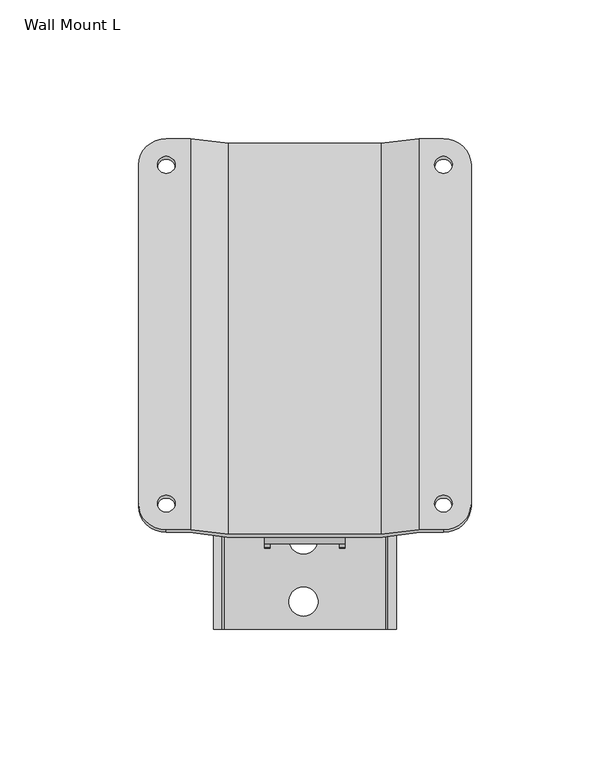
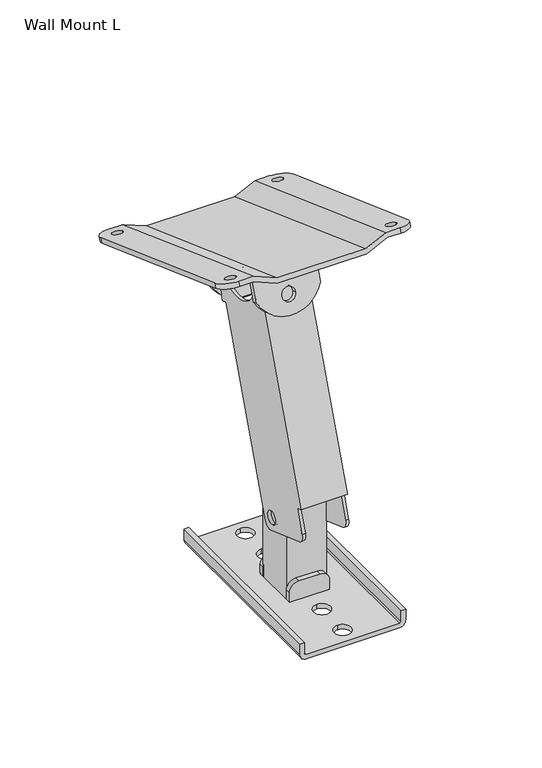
"""IFC4 building model written with IfcOpenShell, lengths in millimetres: proxy geometry, d&b xS-Series Wall Mount L : Wall Mount L."""

from ifc_helpers import new_model, si_unit, point, frame, frame_2d, origin, origin_with_axes, place, context, project, spatial, polyline, circle_curve, trimmed, segment, composite_curve, outline, extrude, source, transform, mapped, element, save
from ifc_brep_helpers import plane_surface, cylinder_surface, revolved_surface, advanced_brep


def wall_mount_l_aa618b3f(model_context):
    return source(origin(), model_context, "Body", "SolidModel", [
        advanced_brep(
        [(-27.5, -28.3083709, 229.5181773), (-41.2373871, -26.5982702, 234.2166404), (-50.0, -26.5982702, 234.2166404), (-50.0, -27.6243307, 231.3975625), (-41.766368, -27.6243307, 231.3975625), (-28.0289809, -29.3344314, 226.6990994), (28.0289809, -29.3344314, 226.6990994), (41.766368, -27.6243307, 231.3975625), (50.0, -27.6243307, 231.3975625), (50.0, -26.5982702, 234.2166404), (41.2373871, -26.5982702, 234.2166404), (27.5, -28.3083709, 229.5181773), (-27.5, 112.6455222, 178.2151558), (27.5, 112.6455222, 178.2151558), (41.2373871, 114.3556229, 182.9136189), (50.0, 114.3556229, 182.9136189), (50.0, 113.3295625, 180.094541), (41.766368, 113.3295625, 180.094541), (28.0289809, 111.6194617, 175.3960779), (-28.0289809, 111.6194617, 175.3960779), (-41.766368, 113.3295625, 180.094541), (-50.0, 113.3295625, 180.094541), (-50.0, 114.3556229, 182.9136189), (-41.2373871, 114.3556229, 182.9136189), (60.0, -17.201344, 230.7964389), (60.0, 104.9586967, 186.3338203), (53.2145495, -17.201344, 230.7964389), (46.7854505, -17.201344, 230.7964389), (53.2145495, 104.9586967, 186.3338203), (46.7854505, 104.9586967, 186.3338203), (60.0, -18.2274044, 227.9773611), (60.0, 103.9326363, 183.5147424), (46.7854505, 103.9326363, 183.5147424), (53.2145495, 103.9326363, 183.5147424), (46.7854505, -18.2274044, 227.9773611), (53.2145495, -18.2274044, 227.9773611), (-60.0, -18.2274044, 227.9773611), (-60.0, 103.9326363, 183.5147424), (-53.2145495, 103.9326363, 183.5147424), (-46.7854505, 103.9326363, 183.5147424), (-53.2145495, -18.2274044, 227.9773611), (-46.7854505, -18.2274044, 227.9773611), (-60.0, -17.201344, 230.7964389), (-60.0, 104.9586967, 186.3338203), (-46.7854505, -17.201344, 230.7964389), (-53.2145495, -17.201344, 230.7964389), (-46.7854505, 104.9586967, 186.3338203), (-53.2145495, 104.9586967, 186.3338203)],
        [
            (0, 1),
            (1, 2),
            (2, 3),
            (3, 4),
            (4, 5),
            (5, 6),
            (6, 7),
            (7, 8),
            (8, 9),
            (9, 10),
            (10, 11),
            (11, 0),
            (12, 13),
            (13, 14),
            (14, 15),
            (15, 16),
            (16, 17),
            (17, 18),
            (18, 19),
            (19, 20),
            (20, 21),
            (21, 22),
            (22, 23),
            (23, 12),
            (11, 13),
            (12, 0),
            (10, 14),
            (9, 24, circle_curve(frame((50.0, -17.201344, 230.7964389), z_axis=(0.0, 0.3420201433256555, 0.9396926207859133), x_axis=(1.0, 0.0, 0.0)), 10.0)),
            (24, 25),
            (25, 15, circle_curve(frame((50.0, 104.9586967, 186.3338203), z_axis=(0.0, 0.3420201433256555, 0.9396926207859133), x_axis=(1.0, 0.0, 0.0)), 10.0)),
            (26, 27, circle_curve(frame((50.0, -17.201344, 230.7964389), z_axis=(0.0, -0.3420201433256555, -0.9396926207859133), x_axis=(1.0, 0.0, 0.0)), 3.2145495)),
            (27, 26, circle_curve(frame((50.0, -17.201344, 230.7964389), z_axis=(0.0, -0.3420201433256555, -0.9396926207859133), x_axis=(1.0, 0.0, 0.0)), 3.2145495)),
            (28, 29, circle_curve(frame((50.0, 104.9586967, 186.3338203), z_axis=(0.0, -0.3420201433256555, -0.9396926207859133), x_axis=(1.0, 0.0, 0.0)), 3.2145495)),
            (29, 28, circle_curve(frame((50.0, 104.9586967, 186.3338203), z_axis=(0.0, -0.3420201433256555, -0.9396926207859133), x_axis=(1.0, 0.0, 0.0)), 3.2145495)),
            (24, 30),
            (30, 31),
            (31, 25),
            (7, 17),
            (16, 31, circle_curve(frame((50.0, 103.9326363, 183.5147424), z_axis=(0.0, -0.3420201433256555, -0.9396926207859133), x_axis=(1.0, 0.0, 0.0)), 10.0)),
            (30, 8, circle_curve(frame((50.0, -18.2274044, 227.9773611), z_axis=(0.0, -0.3420201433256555, -0.9396926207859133), x_axis=(1.0, 0.0, 0.0)), 10.0)),
            (32, 33, circle_curve(frame((50.0, 103.9326363, 183.5147424), z_axis=(0.0, 0.3420201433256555, 0.9396926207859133), x_axis=(1.0, 0.0, 0.0)), 3.2145495)),
            (33, 32, circle_curve(frame((50.0, 103.9326363, 183.5147424), z_axis=(0.0, 0.3420201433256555, 0.9396926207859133), x_axis=(1.0, 0.0, 0.0)), 3.2145495)),
            (34, 35, circle_curve(frame((50.0, -18.2274044, 227.9773611), z_axis=(0.0, 0.3420201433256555, 0.9396926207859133), x_axis=(1.0, 0.0, 0.0)), 3.2145495)),
            (35, 34, circle_curve(frame((50.0, -18.2274044, 227.9773611), z_axis=(0.0, 0.3420201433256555, 0.9396926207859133), x_axis=(1.0, 0.0, 0.0)), 3.2145495)),
            (6, 18),
            (5, 19),
            (4, 20),
            (3, 36, circle_curve(frame((-50.0, -18.2274044, 227.9773611), z_axis=(0.0, -0.3420201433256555, -0.9396926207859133), x_axis=(1.0, 0.0, 0.0)), 10.0)),
            (36, 37),
            (37, 21, circle_curve(frame((-50.0, 103.9326363, 183.5147424), z_axis=(0.0, -0.3420201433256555, -0.9396926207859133), x_axis=(1.0, 0.0, 0.0)), 10.0)),
            (38, 39, circle_curve(frame((-50.0, 103.9326363, 183.5147424), z_axis=(0.0, 0.3420201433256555, 0.9396926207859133), x_axis=(1.0, 0.0, 0.0)), 3.2145495)),
            (39, 38, circle_curve(frame((-50.0, 103.9326363, 183.5147424), z_axis=(0.0, 0.3420201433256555, 0.9396926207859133), x_axis=(1.0, 0.0, 0.0)), 3.2145495)),
            (40, 41, circle_curve(frame((-50.0, -18.2274044, 227.9773611), z_axis=(0.0, 0.3420201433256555, 0.9396926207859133), x_axis=(1.0, 0.0, 0.0)), 3.2145495)),
            (41, 40, circle_curve(frame((-50.0, -18.2274044, 227.9773611), z_axis=(0.0, 0.3420201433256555, 0.9396926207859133), x_axis=(1.0, 0.0, 0.0)), 3.2145495)),
            (36, 42),
            (42, 43),
            (43, 37),
            (1, 23),
            (22, 43, circle_curve(frame((-50.0, 104.9586967, 186.3338203), z_axis=(0.0, 0.3420201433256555, 0.9396926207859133), x_axis=(1.0, 0.0, 0.0)), 10.0)),
            (42, 2, circle_curve(frame((-50.0, -17.201344, 230.7964389), z_axis=(0.0, 0.3420201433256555, 0.9396926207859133), x_axis=(1.0, 0.0, 0.0)), 10.0)),
            (44, 45, circle_curve(frame((-50.0, -17.201344, 230.7964389), z_axis=(0.0, -0.3420201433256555, -0.9396926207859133), x_axis=(1.0, 0.0, 0.0)), 3.2145495)),
            (45, 44, circle_curve(frame((-50.0, -17.201344, 230.7964389), z_axis=(0.0, -0.3420201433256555, -0.9396926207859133), x_axis=(1.0, 0.0, 0.0)), 3.2145495)),
            (46, 47, circle_curve(frame((-50.0, 104.9586967, 186.3338203), z_axis=(0.0, -0.3420201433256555, -0.9396926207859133), x_axis=(1.0, 0.0, 0.0)), 3.2145495)),
            (47, 46, circle_curve(frame((-50.0, 104.9586967, 186.3338203), z_axis=(0.0, -0.3420201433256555, -0.9396926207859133), x_axis=(1.0, 0.0, 0.0)), 3.2145495)),
            (38, 47),
            (46, 39),
            (32, 29),
            (28, 33),
            (40, 45),
            (44, 41),
            (34, 27),
            (26, 35),
        ],
        [
            plane_surface(frame((27.5, -28.3083709, 229.5181773), z_axis=(0.0, -0.9396926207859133, 0.3420201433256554), x_axis=(-1.0, 0.0, 0.0))),
            plane_surface(frame((27.5, 112.6455222, 178.2151558), z_axis=(0.0, 0.9396926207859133, -0.3420201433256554), x_axis=(1.0, 0.0, 0.0))),
            plane_surface(frame((-27.5, 112.6455222, 178.2151558), z_axis=(0.0, 0.3420201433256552, 0.9396926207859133), x_axis=(0.0, -0.9396926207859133, 0.3420201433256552))),
            plane_surface(frame((27.5, 112.6455222, 178.2151558), z_axis=(-0.3420201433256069, 0.32139380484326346, 0.8830222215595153), x_axis=(0.0, -0.9396926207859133, 0.34202014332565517))),
            plane_surface(frame((41.2373871, 114.3556229, 182.9136189), z_axis=(0.0, 0.34202014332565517, 0.9396926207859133), x_axis=(0.0, -0.9396926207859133, 0.34202014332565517))),
            plane_surface(frame((60.0, 114.3556229, 182.9136189), z_axis=(1.0, 0.0, 0.0), x_axis=(0.0, -0.9396926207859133, 0.34202014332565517))),
            plane_surface(frame((60.0, 113.3295625, 180.094541), z_axis=(0.0, -0.34202014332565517, -0.9396926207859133), x_axis=(0.0, -0.9396926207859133, 0.34202014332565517))),
            plane_surface(frame((41.766368, 113.3295625, 180.094541), z_axis=(0.34202014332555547, -0.32139380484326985, -0.8830222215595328), x_axis=(0.0, -0.9396926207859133, 0.34202014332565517))),
            plane_surface(frame((28.0289809, 111.6194617, 175.3960779), z_axis=(0.0, -0.34202014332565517, -0.9396926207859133), x_axis=(0.0, -0.9396926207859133, 0.34202014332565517))),
            plane_surface(frame((-28.0289809, 111.6194617, 175.3960779), z_axis=(-0.3420201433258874, -0.32139380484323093, -0.8830222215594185), x_axis=(0.0, -0.9396926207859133, 0.3420201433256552))),
            plane_surface(frame((-41.766368, 113.3295625, 180.094541), z_axis=(0.0, -0.34202014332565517, -0.9396926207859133), x_axis=(0.0, -0.9396926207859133, 0.34202014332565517))),
            plane_surface(frame((-60.0, 113.3295625, 180.094541), z_axis=(-1.0, 0.0, 0.0), x_axis=(0.0, -0.9396926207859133, 0.3420201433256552))),
            plane_surface(frame((-60.0, 114.3556229, 182.9136189), z_axis=(0.0, 0.34202014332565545, 0.9396926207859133), x_axis=(0.0, -0.9396926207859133, 0.34202014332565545))),
            plane_surface(frame((-41.2373871, 114.3556229, 182.9136189), z_axis=(0.3420201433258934, 0.32139380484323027, 0.8830222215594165), x_axis=(0.0, -0.9396926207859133, 0.3420201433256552))),
            cylinder_surface(frame((-50.0, 103.248596, 181.6353572), z_axis=(0.0, -0.3420201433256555, -0.9396926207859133), x_axis=(1.0, 0.0, 0.0)), 10.0),
            cylinder_surface(frame((-50.0, -17.201344, 230.7964389), z_axis=(0.0, -0.3420201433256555, -0.9396926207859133), x_axis=(1.0, 0.0, 0.0)), 10.0),
            cylinder_surface(frame((50.0, 104.9586967, 186.3338203), z_axis=(0.0, -0.3420201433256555, -0.9396926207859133), x_axis=(1.0, 0.0, 0.0)), 10.0),
            cylinder_surface(frame((50.0, -17.201344, 230.7964389), z_axis=(0.0, -0.3420201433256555, -0.9396926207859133), x_axis=(1.0, 0.0, 0.0)), 10.0),
            revolved_surface(polyline([(-46.7854505, 104.9586967, 186.3338203), (-46.7854505, 103.93263626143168, 183.5147424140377)]), (-50.0, 104.9586967, 186.3338203), (0.0, 0.3420201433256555, 0.9396926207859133)),
            revolved_surface(polyline([(53.2145495, 104.9586967, 186.3338203), (53.2145495, 103.93263626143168, 183.5147424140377)]), (50.0, 104.9586967, 186.3338203), (0.0, 0.3420201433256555, 0.9396926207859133)),
            revolved_surface(polyline([(-46.7854505, -17.201344, 230.7964389), (-46.7854505, -18.227404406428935, 227.97736110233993)]), (-50.0, -17.201344, 230.7964389), (0.0, 0.3420201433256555, 0.9396926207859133)),
            revolved_surface(polyline([(53.2145495, -17.201344, 230.7964389), (53.2145495, -18.227404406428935, 227.97736110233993)]), (50.0, -17.201344, 230.7964389), (0.0, 0.3420201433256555, 0.9396926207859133)),
        ],
        [
            (0, [[1, 2, 3, 4, 5, 6, 7, 8, 9, 10, 11, 12]]),
            (1, [[13, 14, 15, 16, 17, 18, 19, 20, 21, 22, 23, 24]]),
            (2, [[-12, 25, -13, 26]]),
            (3, [[-11, 27, -14, -25]]),
            (4, [[-27, -10, 28, 29, 30, -15], [31, 32], [33, 34]]),
            (5, [[-29, 35, 36, 37]]),
            (6, [[38, -17, 39, -36, 40, -8], [41, 42], [43, 44]]),
            (7, [[-7, 45, -18, -38]]),
            (8, [[-6, 46, -19, -45]]),
            (9, [[-5, 47, -20, -46]]),
            (10, [[-47, -4, 48, 49, 50, -21], [51, 52], [53, 54]]),
            (11, [[-49, 55, 56, 57]]),
            (12, [[58, -23, 59, -56, 60, -2], [61, 62], [63, 64]]),
            (13, [[-1, -26, -24, -58]]),
            (14, [[-22, -50, -57, -59]]),
            (15, [[-3, -60, -55, -48]]),
            (16, [[-16, -30, -37, -39]]),
            (17, [[-9, -40, -35, -28]]),
            (18, [[65, -63, 66, -51]]),
            (18, [[-65, -52, -66, -64]]),
            (19, [[67, -33, 68, -41]]),
            (19, [[-67, -42, -68, -34]]),
            (20, [[69, -61, 70, -53]]),
            (20, [[-69, -54, -70, -62]]),
            (21, [[71, -31, 72, -43]]),
            (21, [[-71, -44, -72, -32]]),
        ],
    ),
        extrude(outline(composite_curve([segment(polyline([(-23.1651514, 0.0), (0.0, 0.0)]), True, "CONTINUOUS"), segment(trimmed(circle_curve(frame_2d((-9.180884, -20.0)), 22.0065588), [point((0.0, 0.0))], [point((0.0, -40.0))], False, "CARTESIAN"), True, "CONTINUOUS"), segment(polyline([(0.0, -40.0), (-23.1651514, -40.0), (-23.1651514, 0.0)]), True, "CONTINUOUS")], self_intersect=False), holes=[composite_curve([segment(trimmed(circle_curve(frame_2d((0.844722, -20.0)), 4.2329785), [point((0.844722, -15.7670215))], [point((0.844722, -24.2329785))], True, "CARTESIAN"), True, "CONTINUOUS"), segment(trimmed(circle_curve(frame_2d((0.844722, -20.0)), 4.2329785), [point((0.844722, -24.2329785))], [point((0.844722, -15.7670215))], True, "CARTESIAN"), True, "CONTINUOUS")], self_intersect=False)]), frame((20.0, 9.7272513, 187.8299704), z_axis=(0.0, -0.9396926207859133, 0.3420201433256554), x_axis=(0.0, -0.3420201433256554, -0.9396926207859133)), (0.0, 0.0, 1.0), 3.0),
        extrude(outline(composite_curve([segment(polyline([(-23.1651514, 0.0), (0.0, 0.0)]), True, "CONTINUOUS"), segment(trimmed(circle_curve(frame_2d((-9.180884, -20.0)), 22.0065588), [point((0.0, 0.0))], [point((0.0, -40.0))], False, "CARTESIAN"), True, "CONTINUOUS"), segment(polyline([(0.0, -40.0), (-23.1651514, -40.0), (-23.1651514, 0.0)]), True, "CONTINUOUS")], self_intersect=False), holes=[composite_curve([segment(trimmed(circle_curve(frame_2d((0.844722, -20.0)), 4.2329785), [point((0.844722, -15.7670215))], [point((0.844722, -24.2329785))], True, "CARTESIAN"), True, "CONTINUOUS"), segment(trimmed(circle_curve(frame_2d((0.844722, -20.0)), 4.2329785), [point((0.844722, -24.2329785))], [point((0.844722, -15.7670215))], True, "CARTESIAN"), True, "CONTINUOUS")], self_intersect=False)]), frame((20.0, 59.5309602, 169.7029028), z_axis=(0.0, -0.9396926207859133, 0.34202014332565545), x_axis=(0.0, -0.34202014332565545, -0.9396926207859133)), (0.0, 0.0, 1.0), 3.0),
        advanced_brep(
        [(-12.5, -29.9872471, 52.4010432), (-12.5, 0.0829167, 41.4563986), (-12.5, 6.4914805, 44.444761), (-12.5, 49.2439985, 161.9063386), (-12.5, 57.794502, 185.3986541), (-12.5, 56.8548094, 185.7406743), (-12.5, 19.2671046, 199.42148), (-12.5, 18.327412, 199.7635001), (-12.5, -27.8453074, 72.9049963), (-12.5, -32.9756095, 58.809607), (-12.5, -1.4487962, 46.0194651), (-12.5, 1.4487962, 53.9805349), (-14.5, -29.9872471, 52.4010432), (-14.5, -32.9756095, 58.809607), (-14.5, -27.8453074, 72.9049963), (-14.5, -31.6040779, 74.2730769), (-14.5, 14.5686415, 201.1315807), (-14.5, 19.2671046, 199.42148), (-14.5, 56.8548094, 185.7406743), (-14.5, 61.5532725, 184.0305735), (-14.5, 53.0027689, 160.538258), (-14.5, 49.2439985, 161.9063386), (-14.5, 6.4914805, 44.444761), (-14.5, 0.0829167, 41.4563986), (-14.5, -1.4487962, 46.0194651), (-14.5, 1.4487962, 53.9805349), (12.5, 57.794502, 185.3986541), (12.5, 56.8548094, 185.7406743), (14.5, 56.8548094, 185.7406743), (14.5, 61.5532725, 184.0305735), (14.5, 14.5686415, 201.1315807), (14.5, 19.2671046, 199.42148), (12.5, 19.2671046, 199.42148), (12.5, 18.327412, 199.7635001), (14.5, -31.6040779, 74.2730769), (14.5, -27.8453074, 72.9049963), (14.5, -32.9756095, 58.809607), (14.5, -29.9872471, 52.4010432), (14.5, 0.0829167, 41.4563986), (14.5, 6.4914805, 44.444761), (14.5, 49.2439985, 161.9063386), (14.5, 53.0027689, 160.538258), (14.5, -1.4487962, 46.0194651), (14.5, 1.4487962, 53.9805349), (12.5, -27.8453074, 72.9049963), (12.5, 49.2439985, 161.9063386), (12.5, -29.9872471, 52.4010432), (12.5, -32.9756095, 58.809607), (12.5, 6.4914805, 44.444761), (12.5, 0.0829167, 41.4563986), (12.5, -1.4487962, 46.0194651), (12.5, 1.4487962, 53.9805349)],
        [
            (0, 1),
            (1, 2, circle_curve(frame((-12.5, 1.7930174, 46.1548617), z_axis=(1.0, 0.0, 0.0), x_axis=(0.0, 0.3420201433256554, 0.9396926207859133)), 5.0)),
            (2, 3),
            (3, 4),
            (4, 5),
            (5, 6, circle_curve(frame((-12.5, 38.060957, 192.5810771), z_axis=(-1.0, 0.0, 0.0), x_axis=(0.0, 0.3420201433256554, 0.9396926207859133)), 20.0)),
            (6, 7),
            (7, 8),
            (8, 9),
            (9, 0, circle_curve(frame((-12.5, -28.2771464, 57.0995063), z_axis=(1.0, 0.0, 0.0), x_axis=(0.0, 0.3420201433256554, 0.9396926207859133)), 5.0)),
            (10, 11, circle_curve(frame((-12.5, 0.0, 50.0), z_axis=(-1.0, 0.0, 0.0), x_axis=(0.0, 0.3420201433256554, 0.9396926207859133)), 4.2359968)),
            (11, 10, circle_curve(frame((-12.5, 0.0, 50.0), z_axis=(-1.0, 0.0, 0.0), x_axis=(0.0, 0.3420201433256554, 0.9396926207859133)), 4.2359968)),
            (12, 13, circle_curve(frame((-14.5, -28.2771464, 57.0995063), z_axis=(-1.0, 0.0, 0.0), x_axis=(0.0, 0.3420201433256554, 0.9396926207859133)), 5.0)),
            (13, 14),
            (14, 15),
            (15, 16),
            (16, 17),
            (17, 18, circle_curve(frame((-14.5, 38.060957, 192.5810771), z_axis=(1.0, 0.0, 0.0), x_axis=(0.0, 0.3420201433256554, 0.9396926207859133)), 20.0)),
            (18, 19),
            (19, 20),
            (20, 21),
            (21, 22),
            (22, 23, circle_curve(frame((-14.5, 1.7930174, 46.1548617), z_axis=(-1.0, 0.0, 0.0), x_axis=(0.0, 0.3420201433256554, 0.9396926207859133)), 5.0)),
            (23, 12),
            (24, 25, circle_curve(frame((-14.5, 0.0, 50.0), z_axis=(1.0, 0.0, 0.0), x_axis=(0.0, 0.3420201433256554, 0.9396926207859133)), 4.2359968)),
            (25, 24, circle_curve(frame((-14.5, 0.0, 50.0), z_axis=(1.0, 0.0, 0.0), x_axis=(0.0, 0.3420201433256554, 0.9396926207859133)), 4.2359968)),
            (0, 12),
            (23, 1),
            (22, 2),
            (21, 3),
            (4, 26),
            (26, 27),
            (27, 28),
            (28, 29),
            (29, 19),
            (18, 5),
            (17, 6),
            (16, 30),
            (30, 31),
            (31, 32),
            (32, 33),
            (33, 7),
            (13, 9),
            (8, 14),
            (10, 24),
            (25, 11),
            (30, 34),
            (34, 35),
            (35, 36),
            (36, 37, circle_curve(frame((14.5, -28.2771464, 57.0995063), z_axis=(1.0, 0.0, 0.0), x_axis=(0.0, 0.3420201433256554, 0.9396926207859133)), 5.0)),
            (37, 38),
            (38, 39, circle_curve(frame((14.5, 1.7930174, 46.1548617), z_axis=(1.0, 0.0, 0.0), x_axis=(0.0, 0.3420201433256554, 0.9396926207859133)), 5.0)),
            (39, 40),
            (40, 41),
            (41, 29),
            (28, 31, circle_curve(frame((14.5, 38.060957, 192.5810771), z_axis=(-1.0, 0.0, 0.0), x_axis=(0.0, 0.3420201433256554, 0.9396926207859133)), 20.0)),
            (42, 43, circle_curve(frame((14.5, 0.0, 50.0), z_axis=(-1.0, 0.0, 0.0), x_axis=(0.0, 0.3420201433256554, 0.9396926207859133)), 4.2359968)),
            (43, 42, circle_curve(frame((14.5, 0.0, 50.0), z_axis=(-1.0, 0.0, 0.0), x_axis=(0.0, 0.3420201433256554, 0.9396926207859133)), 4.2359968)),
            (15, 34),
            (33, 44),
            (44, 8),
            (3, 45),
            (45, 26),
            (41, 20),
            (46, 47, circle_curve(frame((12.5, -28.2771464, 57.0995063), z_axis=(-1.0, 0.0, 0.0), x_axis=(0.0, 0.3420201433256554, 0.9396926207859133)), 5.0)),
            (47, 44),
            (32, 27, circle_curve(frame((12.5, 38.060957, 192.5810771), z_axis=(1.0, 0.0, 0.0), x_axis=(0.0, 0.3420201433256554, 0.9396926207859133)), 20.0)),
            (45, 48),
            (48, 49, circle_curve(frame((12.5, 1.7930174, 46.1548617), z_axis=(-1.0, 0.0, 0.0), x_axis=(0.0, 0.3420201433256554, 0.9396926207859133)), 5.0)),
            (49, 46),
            (50, 51, circle_curve(frame((12.5, 0.0, 50.0), z_axis=(1.0, 0.0, 0.0), x_axis=(0.0, 0.3420201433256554, 0.9396926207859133)), 4.2359968)),
            (51, 50, circle_curve(frame((12.5, 0.0, 50.0), z_axis=(1.0, 0.0, 0.0), x_axis=(0.0, 0.3420201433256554, 0.9396926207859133)), 4.2359968)),
            (49, 38),
            (37, 46),
            (48, 39),
            (45, 40),
            (47, 36),
            (35, 44),
            (51, 43),
            (42, 50),
        ],
        [
            plane_surface(frame((-12.5, 0.0829167, 41.4563986), z_axis=(1.0000000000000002, 0.0, 0.0), x_axis=(0.0, 0.9396926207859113, -0.342020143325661))),
            plane_surface(frame((-14.5, 0.0829167, 41.4563986), z_axis=(-1.0000000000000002, 0.0, 0.0), x_axis=(0.0, -0.9396926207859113, 0.342020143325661))),
            plane_surface(frame((-12.5, -29.9872471, 52.4010432), z_axis=(0.0, -0.342020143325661, -0.9396926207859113), x_axis=(-1.0, 0.0, 0.0))),
            cylinder_surface(frame((-14.5, 1.7930174, 46.1548617), z_axis=(1.0000000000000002, 0.0, 0.0), x_axis=(0.0, 0.3420201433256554, 0.9396926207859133)), 5.0),
            plane_surface(frame((-12.5, 6.4914805, 44.444761), z_axis=(0.0, 0.9396926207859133, -0.34202014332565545), x_axis=(-1.0, 0.0, 0.0))),
            plane_surface(frame((-12.5, 57.794502, 185.3986541), z_axis=(0.0, 0.3420201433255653, 0.9396926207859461), x_axis=(-1.0, 0.0, 0.0))),
            revolved_surface(polyline([(-14.5, 44.90135986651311, 211.37492951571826), (-12.5, 44.90135986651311, 211.37492951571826)]), (-14.5, 38.060957, 192.5810771), (-1.0000000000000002, 0.0, 0.0)),
            plane_surface(frame((-12.5, 19.2671046, 199.42148), z_axis=(0.0, 0.3420201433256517, 0.9396926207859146), x_axis=(-1.0, 0.0, 0.0))),
            plane_surface(frame((-12.5, 18.327412, 199.7635001), z_axis=(0.0, -0.9396926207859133, 0.34202014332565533), x_axis=(-1.0, 0.0, 0.0))),
            cylinder_surface(frame((-14.5, -28.2771464, 57.0995063), z_axis=(1.0000000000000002, 0.0, 0.0), x_axis=(0.0, 0.3420201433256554, 0.9396926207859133)), 5.0),
            revolved_surface(polyline([(-14.500000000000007, 1.4487962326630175, 53.98053493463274), (-12.500000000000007, 1.4487962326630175, 53.98053493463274)]), (0.0, 0.0, 50.0), (-1.0000000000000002, 0.0, 0.0)),
            plane_surface(frame((14.5, 14.5686415, 201.1315807), z_axis=(1.0000000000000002, 0.0, 0.0), x_axis=(0.0, -0.3420201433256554, -0.9396926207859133))),
            plane_surface(frame((14.5, 14.5686415, 201.1315807), z_axis=(0.0, -0.9396926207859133, 0.3420201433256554), x_axis=(-1.0, 0.0, 0.0))),
            plane_surface(frame((14.5, -27.8453074, 72.9049963), z_axis=(0.0, 0.9396926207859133, -0.3420201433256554), x_axis=(-1.0, 0.0, 0.0))),
            plane_surface(frame((14.5, 57.794502, 185.3986541), z_axis=(0.0, -0.9396926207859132, 0.3420201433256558), x_axis=(-1.0, 0.0, 0.0))),
            plane_surface(frame((14.5, 53.0027689, 160.538258), z_axis=(0.0, 0.9396926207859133, -0.34202014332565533), x_axis=(-1.0, 0.0, 0.0))),
            plane_surface(frame((12.5, 0.0829167, 41.4563986), z_axis=(-1.0, 0.0, 0.0), x_axis=(0.0, -0.9396926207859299, 0.3420201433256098))),
            plane_surface(frame((14.5, -29.9872471, 52.4010432), z_axis=(0.0, -0.3420201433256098, -0.9396926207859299), x_axis=(-1.0, 0.0, 0.0))),
            cylinder_surface(frame((12.5, 1.7930174, 46.1548617), z_axis=(1.0000000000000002, 0.0, 0.0), x_axis=(0.0, 0.3420201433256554, 0.9396926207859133)), 5.0),
            plane_surface(frame((14.5, 6.4914805, 44.444761), z_axis=(0.0, 0.9396926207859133, -0.34202014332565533), x_axis=(-1.0, 0.0, 0.0))),
            revolved_surface(polyline([(12.5, 44.90135986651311, 211.37492951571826), (14.5, 44.90135986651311, 211.37492951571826)]), (12.5, 38.060957, 192.5810771), (-1.0000000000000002, 0.0, 0.0)),
            plane_surface(frame((14.5, 18.327412, 199.7635001), z_axis=(0.0, -0.9396926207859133, 0.3420201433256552), x_axis=(-1.0, 0.0, 0.0))),
            cylinder_surface(frame((12.5, -28.2771464, 57.0995063), z_axis=(1.0000000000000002, 0.0, 0.0), x_axis=(0.0, 0.3420201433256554, 0.9396926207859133)), 5.0),
            revolved_surface(polyline([(12.500000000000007, 1.4487962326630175, 53.98053493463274), (14.500000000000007, 1.4487962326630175, 53.98053493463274)]), (0.0, 0.0, 50.0), (-1.0000000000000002, 0.0, 0.0)),
            plane_surface(frame((14.5, -31.6040779, 74.2730769), z_axis=(0.0, -0.3420201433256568, -0.9396926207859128), x_axis=(-1.0, 0.0, 0.0))),
            plane_surface(frame((14.5, 49.2439985, 161.9063386), z_axis=(0.0, -0.3420201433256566, -0.9396926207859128), x_axis=(-1.0, 0.0, 0.0))),
        ],
        [
            (0, [[1, 2, 3, 4, 5, 6, 7, 8, 9, 10], [11, 12]]),
            (1, [[13, 14, 15, 16, 17, 18, 19, 20, 21, 22, 23, 24], [25, 26]]),
            (2, [[-1, 27, -24, 28]]),
            (3, [[-2, -28, -23, 29]]),
            (4, [[-29, -22, 30, -3]]),
            (5, [[-5, 31, 32, 33, 34, 35, -19, 36]]),
            (6, [[-6, -36, -18, 37]]),
            (7, [[-7, -37, -17, 38, 39, 40, 41, 42]]),
            (8, [[43, -9, 44, -14]]),
            (9, [[-10, -43, -13, -27]]),
            (10, [[-11, 45, -26, 46]]),
            (10, [[-12, -46, -25, -45]]),
            (11, [[-39, 47, 48, 49, 50, 51, 52, 53, 54, 55, -34, 56], [57, 58]]),
            (12, [[-47, -38, -16, 59]]),
            (13, [[-8, -42, 60, 61]]),
            (14, [[-4, 62, 63, -31]]),
            (15, [[-55, 64, -20, -35]]),
            (16, [[65, 66, -60, -41, 67, -32, -63, 68, 69, 70], [71, 72]]),
            (17, [[-70, 73, -51, 74]]),
            (18, [[-69, 75, -52, -73]]),
            (19, [[-75, -68, 76, -53]]),
            (20, [[-67, -40, -56, -33]]),
            (21, [[77, -49, 78, -66]]),
            (22, [[-65, -74, -50, -77]]),
            (23, [[-72, 79, -57, 80]]),
            (23, [[-71, -80, -58, -79]]),
            (24, [[-48, -59, -15, -44, -61, -78]]),
            (25, [[-54, -76, -62, -30, -21, -64]]),
        ],
    ),
        advanced_brep(
        [(29.0, 62.5, 3.0), (-29.0, 62.5, 3.0), (-29.0, -62.5, 3.0), (29.0, -62.5, 3.0), (-0.5249221, 35.2931023, 3.0), (-0.5249221, 24.8355217, 3.0), (-0.5249221, -24.8355217, 3.0), (-0.5249221, -35.2931023, 3.0), (-12.5, -15.75, 3.0), (-12.5, 15.75, 3.0), (12.5, 15.75, 3.0), (12.5, -15.75, 3.0), (-0.5249221, 57.7287903, 3.0), (-0.5249221, 47.2712097, 3.0), (-0.5249221, -47.2712097, 3.0), (-0.5249221, -57.7287903, 3.0), (29.0, -62.5, 0.0), (-29.0, -62.5, 0.0), (-29.0, 62.5, 0.0), (29.0, 62.5, 0.0), (-0.5249221, 35.2931023, 0.0), (-0.5249221, 24.8355217, 0.0), (-0.5249221, -24.8355217, 0.0), (-0.5249221, -35.2931023, 0.0), (-12.5, -15.75, 0.0), (12.5, -15.75, 0.0), (12.5, 15.75, 0.0), (-12.5, 15.75, 0.0), (-0.5249221, 57.7287903, 0.0), (-0.5249221, 47.2712097, 0.0), (-0.5249221, -47.2712097, 0.0), (-0.5249221, -57.7287903, 0.0), (30.0, 62.5, 4.0), (30.0, 62.5, 11.0), (33.0, 62.5, 11.0), (33.0, 62.5, 4.0), (-33.0, 62.5, 4.0), (-33.0, 62.5, 11.0), (-30.0, 62.5, 11.0), (-30.0, 62.5, 4.0), (-30.0, -62.5, 4.0), (-30.0, -62.5, 11.0), (-33.0, -62.5, 11.0), (-33.0, -62.5, 4.0), (33.0, -62.5, 4.0), (33.0, -62.5, 11.0), (30.0, -62.5, 11.0), (30.0, -62.5, 4.0)],
        [
            (0, 1),
            (1, 2),
            (2, 3),
            (3, 0),
            (4, 5, circle_curve(frame((-0.5249221, 30.064312, 3.0), z_axis=(0.0, 0.0, -1.0), x_axis=(0.0, -1.0, 0.0)), 5.2287903)),
            (5, 4, circle_curve(frame((-0.5249221, 30.064312, 3.0), z_axis=(0.0, 0.0, -1.0), x_axis=(0.0, -1.0, 0.0)), 5.2287903)),
            (6, 7, circle_curve(frame((-0.5249221, -30.064312, 3.0), z_axis=(0.0, 0.0, -1.0), x_axis=(0.0, -1.0, 0.0)), 5.2287903)),
            (7, 6, circle_curve(frame((-0.5249221, -30.064312, 3.0), z_axis=(0.0, 0.0, -1.0), x_axis=(0.0, -1.0, 0.0)), 5.2287903)),
            (8, 9),
            (9, 10),
            (10, 11),
            (11, 8),
            (12, 13, circle_curve(frame((-0.5249221, 52.5, 3.0), z_axis=(0.0, 0.0, -1.0), x_axis=(0.0, -1.0, 0.0)), 5.2287903)),
            (13, 12, circle_curve(frame((-0.5249221, 52.5, 3.0), z_axis=(0.0, 0.0, -1.0), x_axis=(0.0, -1.0, 0.0)), 5.2287903)),
            (14, 15, circle_curve(frame((-0.5249221, -52.5, 3.0), z_axis=(0.0, 0.0, -1.0), x_axis=(0.0, -1.0, 0.0)), 5.2287903)),
            (15, 14, circle_curve(frame((-0.5249221, -52.5, 3.0), z_axis=(0.0, 0.0, -1.0), x_axis=(0.0, -1.0, 0.0)), 5.2287903)),
            (16, 17),
            (17, 18),
            (18, 19),
            (19, 16),
            (20, 21, circle_curve(frame((-0.5249221, 30.064312, 0.0), z_axis=(0.0, 0.0, 1.0), x_axis=(0.0, -1.0, 0.0)), 5.2287903)),
            (21, 20, circle_curve(frame((-0.5249221, 30.064312, 0.0), z_axis=(0.0, 0.0, 1.0), x_axis=(0.0, -1.0, 0.0)), 5.2287903)),
            (22, 23, circle_curve(frame((-0.5249221, -30.064312, 0.0), z_axis=(0.0, 0.0, 1.0), x_axis=(0.0, -1.0, 0.0)), 5.2287903)),
            (23, 22, circle_curve(frame((-0.5249221, -30.064312, 0.0), z_axis=(0.0, 0.0, 1.0), x_axis=(0.0, -1.0, 0.0)), 5.2287903)),
            (24, 25),
            (25, 26),
            (26, 27),
            (27, 24),
            (28, 29, circle_curve(frame((-0.5249221, 52.5, 0.0), z_axis=(0.0, 0.0, 1.0), x_axis=(0.0, -1.0, 0.0)), 5.2287903)),
            (29, 28, circle_curve(frame((-0.5249221, 52.5, 0.0), z_axis=(0.0, 0.0, 1.0), x_axis=(0.0, -1.0, 0.0)), 5.2287903)),
            (30, 31, circle_curve(frame((-0.5249221, -52.5, 0.0), z_axis=(0.0, 0.0, 1.0), x_axis=(0.0, -1.0, 0.0)), 5.2287903)),
            (31, 30, circle_curve(frame((-0.5249221, -52.5, 0.0), z_axis=(0.0, 0.0, 1.0), x_axis=(0.0, -1.0, 0.0)), 5.2287903)),
            (0, 32, circle_curve(frame((29.0, 62.5, 4.0), z_axis=(0.0, -1.0, 0.0), x_axis=(1.0, 0.0, 0.0)), 1.0)),
            (32, 33),
            (33, 34),
            (34, 35),
            (35, 19, circle_curve(frame((29.0, 62.5, 4.0), z_axis=(0.0, 1.0, 0.0), x_axis=(1.0, 0.0, 0.0)), 4.0)),
            (18, 36, circle_curve(frame((-29.0, 62.5, 4.0), z_axis=(0.0, 1.0, 0.0), x_axis=(1.0, 0.0, 0.0)), 4.0)),
            (36, 37),
            (37, 38),
            (38, 39),
            (39, 1, circle_curve(frame((-29.0, 62.5, 4.0), z_axis=(0.0, -1.0, 0.0), x_axis=(1.0, 0.0, 0.0)), 1.0)),
            (2, 40, circle_curve(frame((-29.0, -62.5, 4.0), z_axis=(0.0, 1.0, 0.0), x_axis=(1.0, 0.0, 0.0)), 1.0)),
            (40, 41),
            (41, 42),
            (42, 43),
            (43, 17, circle_curve(frame((-29.0, -62.5, 4.0), z_axis=(0.0, -1.0, 0.0), x_axis=(1.0, 0.0, 0.0)), 4.0)),
            (16, 44, circle_curve(frame((29.0, -62.5, 4.0), z_axis=(0.0, -1.0, 0.0), x_axis=(1.0, 0.0, 0.0)), 4.0)),
            (44, 45),
            (45, 46),
            (46, 47),
            (47, 3, circle_curve(frame((29.0, -62.5, 4.0), z_axis=(0.0, 1.0, 0.0), x_axis=(1.0, 0.0, 0.0)), 1.0)),
            (4, 20),
            (21, 5),
            (6, 22),
            (23, 7),
            (8, 24),
            (27, 9),
            (26, 10),
            (25, 11),
            (46, 33),
            (32, 47),
            (35, 44),
            (34, 45),
            (41, 38),
            (37, 42),
            (36, 43),
            (39, 40),
            (12, 28),
            (29, 13),
            (14, 30),
            (31, 15),
        ],
        [
            plane_surface(frame((29.0, 52.5846249, 3.0), z_axis=(0.0, 0.0, 1.0), x_axis=(0.0, 1.0, 0.0))),
            plane_surface(frame((29.0, 52.5846249, 0.0), z_axis=(0.0, 0.0, -1.0), x_axis=(0.0, -1.0, 0.0))),
            plane_surface(frame((29.0, 62.5, 3.0), z_axis=(0.0, 1.0, 0.0), x_axis=(0.0, 0.0, -1.0))),
            plane_surface(frame((-29.0, -62.5, 3.0), z_axis=(0.0, -1.0, 0.0), x_axis=(0.0, 0.0, -1.0))),
            revolved_surface(polyline([(-0.5249221, 24.8355217, 0.0), (-0.5249221, 24.8355217, 3.0)]), (-0.5249221, 30.064312, 0.0), (0.0, 0.0, -1.0)),
            revolved_surface(polyline([(-0.5249221, -35.2931023, 0.0), (-0.5249221, -35.2931023, 3.0)]), (-0.5249221, -30.064312, 0.0), (0.0, 0.0, -1.0)),
            plane_surface(frame((-12.5, -15.75, 3.0), z_axis=(1.0, 0.0, 0.0), x_axis=(0.0, 0.0, -1.0))),
            plane_surface(frame((-12.5, 15.75, 3.0), z_axis=(0.0, -1.0, 0.0), x_axis=(0.0, 0.0, -1.0))),
            plane_surface(frame((12.5, 15.75, 3.0), z_axis=(-1.0, 0.0, 0.0), x_axis=(0.0, 0.0, -1.0))),
            plane_surface(frame((12.5, -15.75, 3.0), z_axis=(0.0, 1.0, 0.0), x_axis=(0.0, 0.0, -1.0))),
            plane_surface(frame((30.0, -62.5, 11.0), z_axis=(-1.0, 0.0, 0.0), x_axis=(0.0, 1.0, 0.0))),
            revolved_surface(polyline([(30.0, 62.5, 4.0), (30.0, -62.5, 4.0)]), (29.0, 62.5, 4.0), (0.0, 1.0, 0.0)),
            cylinder_surface(frame((29.0, 62.5, 4.0), z_axis=(0.0, -1.0, 0.0), x_axis=(1.0, 0.0, 0.0)), 4.0),
            plane_surface(frame((33.0, -62.5, 4.0), z_axis=(1.0, 0.0, -2.5512639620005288e-12), x_axis=(0.0, 1.0, 0.0))),
            plane_surface(frame((33.0, -62.5, 11.0), z_axis=(0.0, 0.0, 1.0), x_axis=(0.0, 1.0, 0.0))),
            plane_surface(frame((-30.0, -62.5, 11.0), z_axis=(0.0, 0.0, 1.0), x_axis=(0.0, 1.0, 0.0))),
            plane_surface(frame((-33.0, -62.5, 11.0), z_axis=(-1.0, 0.0, -2.55126396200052e-12), x_axis=(0.0, 1.0, 0.0))),
            cylinder_surface(frame((-29.0, 0.0, 4.0), z_axis=(0.0, -1.0, 0.0), x_axis=(1.0, 0.0, 0.0)), 4.0),
            revolved_surface(polyline([(-28.0, 62.5, 4.0), (-28.0, -62.5, 4.0)]), (-29.0, 0.0, 4.0), (0.0, 1.0, 0.0)),
            plane_surface(frame((-30.0, -62.5, 4.0), z_axis=(1.0, 0.0, 0.0), x_axis=(0.0, 1.0, 0.0))),
            revolved_surface(polyline([(-0.5249221, 47.2712097, 0.0), (-0.5249221, 47.2712097, 3.0)]), (-0.5249221, 52.5, 0.0), (0.0, 0.0, -1.0)),
            revolved_surface(polyline([(-0.5249221, -57.7287903, 0.0), (-0.5249221, -57.7287903, 3.0)]), (-0.5249221, -52.5, 0.0), (0.0, 0.0, -1.0)),
        ],
        [
            (0, [[1, 2, 3, 4], [5, 6], [7, 8], [9, 10, 11, 12], [13, 14], [15, 16]]),
            (1, [[17, 18, 19, 20], [21, 22], [23, 24], [25, 26, 27, 28], [29, 30], [31, 32]]),
            (2, [[-1, 33, 34, 35, 36, 37, -19, 38, 39, 40, 41, 42]]),
            (3, [[-3, 43, 44, 45, 46, 47, -17, 48, 49, 50, 51, 52]]),
            (4, [[-5, 53, -22, 54]]),
            (4, [[-6, -54, -21, -53]]),
            (5, [[-7, 55, -24, 56]]),
            (5, [[-8, -56, -23, -55]]),
            (6, [[-9, 57, -28, 58]]),
            (7, [[-10, -58, -27, 59]]),
            (8, [[-11, -59, -26, 60]]),
            (9, [[-12, -60, -25, -57]]),
            (10, [[-51, 61, -34, 62]]),
            (11, [[-52, -62, -33, -4]]),
            (12, [[-48, -20, -37, 63]]),
            (13, [[-49, -63, -36, 64]]),
            (14, [[-50, -64, -35, -61]]),
            (15, [[-45, 65, -40, 66]]),
            (16, [[-46, -66, -39, 67]]),
            (17, [[-47, -67, -38, -18]]),
            (18, [[-43, -2, -42, 68]]),
            (19, [[-44, -68, -41, -65]]),
            (20, [[-13, 69, -30, 70]]),
            (20, [[-14, -70, -29, -69]]),
            (21, [[-15, 71, -32, 72]]),
            (21, [[-16, -72, -31, -71]]),
        ],
    ),
        extrude(outline(composite_curve([segment(polyline([(0.0, -12.5), (0.0, 12.5), (9.0, 12.5)]), True, "CONTINUOUS"), segment(trimmed(circle_curve(frame_2d((9.0, 6.5)), 6.0), [point((9.0, 12.5))], [point((15.0, 6.5))], False, "CARTESIAN"), True, "CONTINUOUS"), segment(polyline([(15.0, 6.5), (15.0, -6.5)]), True, "CONTINUOUS"), segment(trimmed(circle_curve(frame_2d((9.0, -6.5)), 6.0), [point((15.0, -6.5))], [point((9.0, -12.5))], False, "CARTESIAN"), True, "CONTINUOUS"), segment(polyline([(9.0, -12.5), (0.0, -12.5)]), True, "CONTINUOUS")], self_intersect=False)), frame((0.0, -15.75, 0.0), z_axis=(0.0, 1.0, 0.0), x_axis=(0.0, 0.0, 1.0)), (0.0, 0.0, 1.0), 3.25),
        extrude(outline(composite_curve([segment(polyline([(0.0, -12.5), (0.0, 12.5), (9.0, 12.5)]), True, "CONTINUOUS"), segment(trimmed(circle_curve(frame_2d((9.0, 6.5)), 6.0), [point((9.0, 12.5))], [point((15.0, 6.5))], False, "CARTESIAN"), True, "CONTINUOUS"), segment(polyline([(15.0, 6.5), (15.0, -6.5)]), True, "CONTINUOUS"), segment(trimmed(circle_curve(frame_2d((9.0, -6.5)), 6.0), [point((15.0, -6.5))], [point((9.0, -12.5))], False, "CARTESIAN"), True, "CONTINUOUS"), segment(polyline([(9.0, -12.5), (0.0, -12.5)]), True, "CONTINUOUS")], self_intersect=False)), frame((0.0, 12.5, 0.0), z_axis=(0.0, 1.0, 0.0), x_axis=(0.0, 0.0, 1.0)), (0.0, 0.0, 1.0), 3.25),
        extrude(outline(polyline([(12.5, 12.5), (12.5, -12.5), (-12.5, -12.5), (-12.5, 12.5), (12.5, 12.5)]), holes=[polyline([(10.5, 10.5), (-10.5, 10.5), (-10.5, -10.5), (10.5, -10.5), (10.5, 10.5)])]), origin_with_axes(), (0.0, 0.0, 1.0), 97.0),
    ])


if __name__ == "__main__":
    model = new_model("IFC4")
    model_context = context("Model", 3, world=origin())
    ifc_project = project(units=[si_unit("LENGTHUNIT", "METRE", prefix="MILLI")], contexts=[model_context])
    site = spatial("IfcSite", under=ifc_project)
    building = spatial("IfcBuilding", under=site)
    placement = place(None, origin())
    wall_mount_l_shape = wall_mount_l_aa618b3f(model_context)
    element("IfcBuildingElementProxy", 1, Name="d&b xS-Series Wall Mount L : Wall Mount L", ObjectType="d&b xS-Series Wall Mount L : Wall Mount L", at=placement, inside=building, context=model_context, shape_type="MappedRepresentation", body=[
        mapped(wall_mount_l_shape, transform((0.0, 0.0, 0.0), x_axis=(1.0, 0.0, 0.0), y_axis=(0.0, 1.0, 0.0), z_axis=(0.0, 0.0, 1.0))),
    ])
    save(model, "model.ifc")
